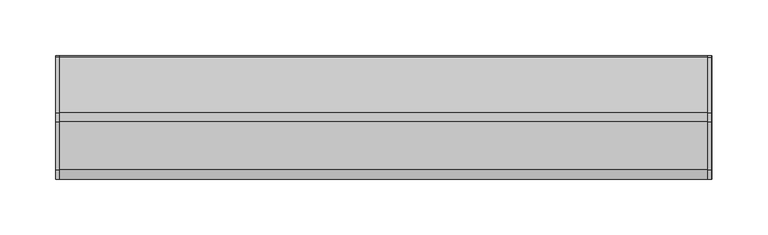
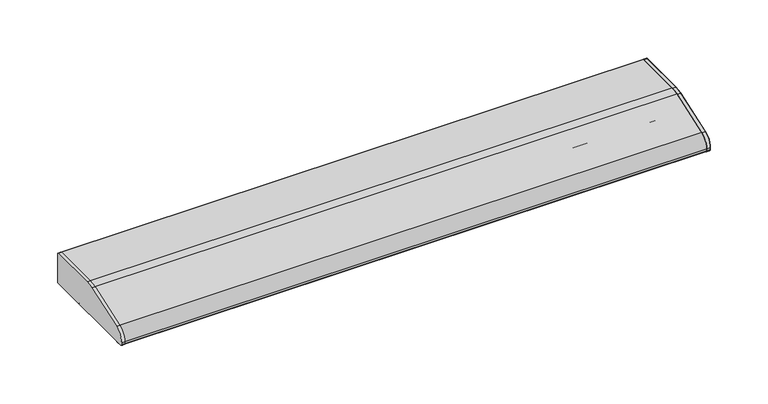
"""IFC4 building model written with IfcOpenShell, lengths in millimetres: light fixture geometry, HermanMiller_SupplementalProducts_G6136_UtilityTaskLight : AO Etho Canvas 30W."""

from ifc_helpers import new_model, si_unit, point, frame, frame_2d, origin, place, context, project, spatial, polyline, circle_curve, trimmed, segment, composite_curve, outline, extrude, source, transform, mapped, element, save


def light_fixture_9998b344(model_context):
    return source(origin(), model_context, "Body", "SweptSolid", [
        extrude(outline(composite_curve([segment(polyline([(53.975, 1270.0), (-53.975, 1270.0)]), True, "CONTINUOUS"), segment(trimmed(circle_curve(frame_2d((-53.975, 1271.5875)), 1.5875), [point((-53.975, 1270.0))], [point((-55.5625, 1271.5875))], False, "CARTESIAN"), True, "CONTINUOUS"), segment(polyline([(-55.5625, 1271.5875), (-55.5625, 1273.6285714)]), True, "CONTINUOUS"), segment(trimmed(circle_curve(frame_2d((-42.8625, 1273.6285714)), 12.7), [point((-55.5625, 1273.6285714))], [point((-46.9814189, 1285.6420849))], False, "CARTESIAN"), True, "CONTINUOUS"), segment(polyline([(-46.9814189, 1285.6420849), (-4.0045045, 1300.377027)]), True, "CONTINUOUS"), segment(trimmed(circle_curve(frame_2d((4.2333333, 1276.35)), 25.4), [point((-4.0045045, 1300.377027))], [point((4.2333333, 1301.75))], False, "CARTESIAN"), True, "CONTINUOUS"), segment(polyline([(4.2333333, 1301.75), (53.975, 1301.75)]), True, "CONTINUOUS"), segment(trimmed(circle_curve(frame_2d((53.975, 1300.1625)), 1.5875), [point((53.975, 1301.75))], [point((55.5625, 1300.1625))], False, "CARTESIAN"), True, "CONTINUOUS"), segment(polyline([(55.5625, 1300.1625), (55.5625, 1271.5875)]), True, "CONTINUOUS"), segment(trimmed(circle_curve(frame_2d((53.975, 1271.5875)), 1.5875), [point((55.5625, 1271.5875))], [point((53.975, 1270.0))], False, "CARTESIAN"), True, "CONTINUOUS")], self_intersect=False)), frame((291.846, 0.0, 0.0), z_axis=(1.0, 0.0, 0.0), x_axis=(0.0, 1.0, 0.0)), (0.0, 0.0, 1.0), 3.175),
        extrude(outline(composite_curve([segment(trimmed(circle_curve(frame_2d((53.975, 1300.1625)), 1.5875), [point((53.975, 1301.75))], [point((55.5625, 1300.1625))], False, "CARTESIAN"), True, "CONTINUOUS"), segment(polyline([(55.5625, 1300.1625), (55.5625, 1271.5875)]), True, "CONTINUOUS"), segment(trimmed(circle_curve(frame_2d((53.975, 1271.5875)), 1.5875), [point((55.5625, 1271.5875))], [point((53.975, 1270.0))], False, "CARTESIAN"), True, "CONTINUOUS"), segment(polyline([(53.975, 1270.0), (-53.975, 1270.0)]), True, "CONTINUOUS"), segment(trimmed(circle_curve(frame_2d((-53.975, 1271.5875)), 1.5875), [point((-53.975, 1270.0))], [point((-55.5625, 1271.5875))], False, "CARTESIAN"), True, "CONTINUOUS"), segment(polyline([(-55.5625, 1271.5875), (-55.5625, 1273.6285714)]), True, "CONTINUOUS"), segment(trimmed(circle_curve(frame_2d((-42.8625, 1273.6285714)), 12.7), [point((-55.5625, 1273.6285714))], [point((-46.9814189, 1285.6420849))], False, "CARTESIAN"), True, "CONTINUOUS"), segment(polyline([(-46.9814189, 1285.6420849), (-4.0045045, 1300.377027)]), True, "CONTINUOUS"), segment(trimmed(circle_curve(frame_2d((4.2333333, 1276.35)), 25.4), [point((-4.0045045, 1300.377027))], [point((4.2333333, 1301.75))], False, "CARTESIAN"), True, "CONTINUOUS"), segment(polyline([(4.2333333, 1301.75), (53.975, 1301.75)]), True, "CONTINUOUS")], self_intersect=False)), frame((-295.021, 0.0, 0.0), z_axis=(1.0, 0.0, 0.0), x_axis=(0.0, 1.0, 0.0)), (0.0, 0.0, 1.0), 3.175),
        extrude(outline(composite_curve([segment(polyline([(55.5625, 1300.1625), (55.5625, 1271.5875)]), True, "CONTINUOUS"), segment(trimmed(circle_curve(frame_2d((53.975, 1271.5875)), 1.5875), [point((55.5625, 1271.5875))], [point((53.975, 1270.0))], False, "CARTESIAN"), True, "CONTINUOUS"), segment(polyline([(53.975, 1270.0), (19.05, 1270.0)]), True, "CONTINUOUS"), segment(trimmed(circle_curve(frame_2d((19.05, 1271.5875)), 1.5875), [point((19.05, 1270.0))], [point((17.4625, 1271.5875))], False, "CARTESIAN"), True, "CONTINUOUS"), segment(polyline([(17.4625, 1271.5875), (17.4625, 1300.1625), (4.4979167, 1300.1625)]), True, "CONTINUOUS"), segment(trimmed(circle_curve(frame_2d((4.4979167, 1274.7625)), 25.4), [point((4.4979167, 1300.1625))], [point((-3.7399212, 1298.789527))], True, "CARTESIAN"), True, "CONTINUOUS"), segment(polyline([(-3.7399212, 1298.789527), (-37.4564189, 1287.2295849)]), True, "CONTINUOUS"), segment(trimmed(circle_curve(frame_2d((-33.3375, 1275.2160714)), 12.7), [point((-37.4564189, 1287.2295849))], [point((-46.0375, 1275.2160714))], True, "CARTESIAN"), True, "CONTINUOUS"), segment(polyline([(-46.0375, 1275.2160714), (-46.0375, 1271.5875)]), True, "CONTINUOUS"), segment(trimmed(circle_curve(frame_2d((-47.625, 1271.5875)), 1.5875), [point((-46.0375, 1271.5875))], [point((-47.625, 1270.0))], False, "CARTESIAN"), True, "CONTINUOUS"), segment(polyline([(-47.625, 1270.0), (-53.975, 1270.0)]), True, "CONTINUOUS"), segment(trimmed(circle_curve(frame_2d((-53.975, 1271.5875)), 1.5875), [point((-53.975, 1270.0))], [point((-55.5625, 1271.5875))], False, "CARTESIAN"), True, "CONTINUOUS"), segment(polyline([(-55.5625, 1271.5875), (-55.5625, 1273.6285714)]), True, "CONTINUOUS"), segment(trimmed(circle_curve(frame_2d((-42.8625, 1273.6285714)), 12.7), [point((-55.5625, 1273.6285714))], [point((-46.9814189, 1285.6420849))], False, "CARTESIAN"), True, "CONTINUOUS"), segment(polyline([(-46.9814189, 1285.6420849), (-4.0045045, 1300.377027)]), True, "CONTINUOUS"), segment(trimmed(circle_curve(frame_2d((4.2333333, 1276.35)), 25.4), [point((-4.0045045, 1300.377027))], [point((4.2333333, 1301.75))], False, "CARTESIAN"), True, "CONTINUOUS"), segment(polyline([(4.2333333, 1301.75), (53.975, 1301.75)]), True, "CONTINUOUS"), segment(trimmed(circle_curve(frame_2d((53.975, 1300.1625)), 1.5875), [point((53.975, 1301.75))], [point((55.5625, 1300.1625))], False, "CARTESIAN"), True, "CONTINUOUS")], self_intersect=False)), frame((-295.021, 0.0, 0.0), z_axis=(1.0, 0.0, 0.0), x_axis=(0.0, 1.0, 0.0)), (0.0, 0.0, 1.0), 590.5080011),
        extrude(outline(composite_curve([segment(trimmed(circle_curve(frame_2d((1.5875, 1287.4625)), 9.525), [point((-7.9375, 1287.4625))], [point((11.1125, 1287.4625))], False, "CARTESIAN"), True, "CONTINUOUS"), segment(trimmed(circle_curve(frame_2d((1.5875, 1287.4625)), 9.525), [point((11.1125, 1287.4625))], [point((-7.9375, 1287.4625))], False, "CARTESIAN"), True, "CONTINUOUS")], self_intersect=False)), frame((269.621, 0.0, 0.0), z_axis=(1.0, 0.0, 0.0), x_axis=(0.0, 1.0, 0.0)), (0.0, 0.0, 1.0), 12.7),
        extrude(outline(composite_curve([segment(trimmed(circle_curve(frame_2d((1.5875, 1287.4625)), 9.525), [point((-7.9375, 1287.4625))], [point((11.1125, 1287.4625))], False, "CARTESIAN"), True, "CONTINUOUS"), segment(trimmed(circle_curve(frame_2d((1.5875, 1287.4625)), 9.525), [point((11.1125, 1287.4625))], [point((-7.9375, 1287.4625))], False, "CARTESIAN"), True, "CONTINUOUS")], self_intersect=False)), frame((-282.321, 0.0, 0.0), z_axis=(1.0, 0.0, 0.0), x_axis=(0.0, 1.0, 0.0)), (0.0, 0.0, 1.0), 12.7),
        extrude(outline(composite_curve([segment(trimmed(circle_curve(frame_2d((1.5875, 1287.4625)), 9.525), [point((-7.9375, 1287.4625))], [point((11.1125, 1287.4625))], False, "CARTESIAN"), True, "CONTINUOUS"), segment(trimmed(circle_curve(frame_2d((1.5875, 1287.4625)), 9.525), [point((11.1125, 1287.4625))], [point((-7.9375, 1287.4625))], False, "CARTESIAN"), True, "CONTINUOUS")], self_intersect=False)), frame((-269.621, 0.0, 0.0), z_axis=(1.0, 0.0, 0.0), x_axis=(0.0, 1.0, 0.0)), (0.0, 0.0, 1.0), 539.242),
        extrude(outline(composite_curve([segment(polyline([(17.4625, 1273.175), (-46.0375, 1273.175), (-46.0375, 1275.2160714)]), True, "CONTINUOUS"), segment(trimmed(circle_curve(frame_2d((-33.3375, 1275.2160714)), 12.7), [point((-46.0375, 1275.2160714))], [point((-37.4564189, 1287.2295849))], False, "CARTESIAN"), True, "CONTINUOUS"), segment(polyline([(-37.4564189, 1287.2295849), (-3.7399212, 1298.789527)]), True, "CONTINUOUS"), segment(trimmed(circle_curve(frame_2d((4.4979167, 1274.7625)), 25.4), [point((-3.7399212, 1298.789527))], [point((4.4979167, 1300.1625))], False, "CARTESIAN"), True, "CONTINUOUS"), segment(polyline([(4.4979167, 1300.1625), (17.4625, 1300.1625), (17.4625, 1273.175)]), True, "CONTINUOUS")], self_intersect=False)), frame((282.321, 0.0, 0.0), z_axis=(1.0, 0.0, 0.0), x_axis=(0.0, 1.0, 0.0)), (0.0, 0.0, 1.0), 9.525),
        extrude(outline(composite_curve([segment(polyline([(17.4625, 1273.175), (-46.0375, 1273.175), (-46.0375, 1275.2160714)]), True, "CONTINUOUS"), segment(trimmed(circle_curve(frame_2d((-33.3375, 1275.2160714)), 12.7), [point((-46.0375, 1275.2160714))], [point((-37.4564189, 1287.2295849))], False, "CARTESIAN"), True, "CONTINUOUS"), segment(polyline([(-37.4564189, 1287.2295849), (-3.7399212, 1298.789527)]), True, "CONTINUOUS"), segment(trimmed(circle_curve(frame_2d((4.4979167, 1274.7625)), 25.4), [point((-3.7399212, 1298.789527))], [point((4.4979167, 1300.1625))], False, "CARTESIAN"), True, "CONTINUOUS"), segment(polyline([(4.4979167, 1300.1625), (17.4625, 1300.1625), (17.4625, 1273.175)]), True, "CONTINUOUS")], self_intersect=False)), frame((-291.846, 0.0, 0.0), z_axis=(1.0, 0.0, 0.0), x_axis=(0.0, 1.0, 0.0)), (0.0, 0.0, 1.0), 9.525),
    ])


if __name__ == "__main__":
    model = new_model("IFC4")
    model_context = context("Model", 3, world=origin())
    ifc_project = project(units=[si_unit("LENGTHUNIT", "METRE", prefix="MILLI")], contexts=[model_context])
    site = spatial("IfcSite", under=ifc_project)
    building = spatial("IfcBuilding", under=site)
    placement = place(None, origin())
    light_fixture_shape = light_fixture_9998b344(model_context)
    element("IfcLightFixture", 1, ObjectType="HermanMiller_SupplementalProducts_G6136_UtilityTaskLight : AO Etho Canvas 30W", at=placement, inside=building, context=model_context, shape_type="MappedRepresentation", body=[
        mapped(light_fixture_shape, transform((0.0, 0.0, 0.0), x_axis=(1.0, 0.0, 0.0), y_axis=(0.0, 1.0, 0.0), z_axis=(0.0, 0.0, 1.0))),
    ])
    save(model, "model.ifc")
